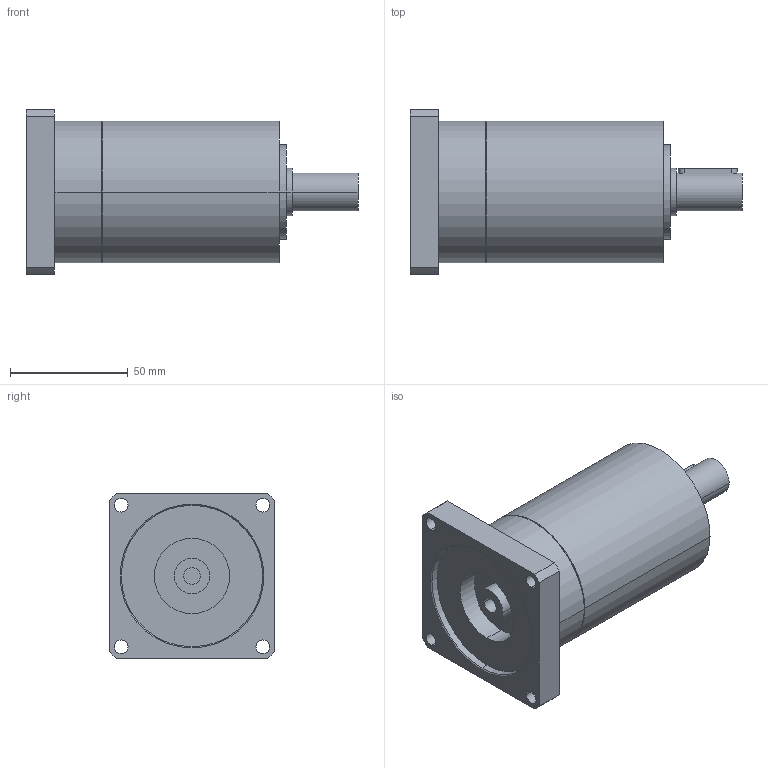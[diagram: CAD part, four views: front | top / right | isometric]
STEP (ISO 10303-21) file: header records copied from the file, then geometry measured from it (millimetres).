
FILE_DESCRIPTION(('CoCreate Modeling STEP Export'),'2;1');
FILE_NAME('GPR75_ig-9-12-16-20-24-30-36_16_B14_7_P30.stp','2014-08-25T16:05:39',(''),(''),'CoCreate Modeling STEP processor for AP214 (Solid Model)','CoCreate Modeling 16.00C 25-Feb-2009 (C) Parametric Technology GmbH','');
FILE_SCHEMA(('AUTOMOTIVE_DESIGN { 1 0 10303 214 1 1 1 1 }'));
Length unit declared in the file: millimetre
Products named in the file (2): GPR75_ig-9-12-16-20-24-30-36_16_B14_7_P30
Assembly tree (1 placements, depth 2):
  GPR75_ig-9-12-16-20-24-30-36_16_B14_7_P30
    GPR75_ig-9-12-16-20-24-30-36_16_B14_7_P30
Bounding box: 140.9 x 70 x 70 mm (x, y, z)
Volume: 320168.4 mm3; surface area: 36917.3 mm2
Topology: 1 solids, 1 shells, 72 faces, 187 edges, 129 vertices
Faces by surface type: cylinder 42, plane 22, cone 8
Entity records: 1954 total; most frequent: ORIENTED_EDGE 370, CARTESIAN_POINT 361, DIRECTION 268, EDGE_CURVE 185, VERTEX_POINT 129, AXIS2_PLACEMENT_3D 100, EDGE_LOOP 94, FACE_OUTER_BOUND 72
